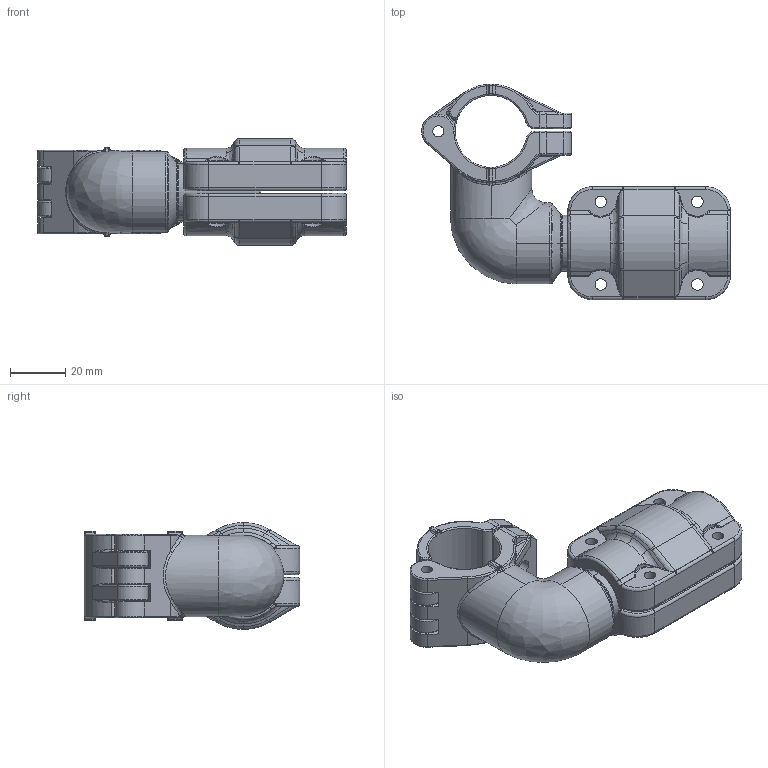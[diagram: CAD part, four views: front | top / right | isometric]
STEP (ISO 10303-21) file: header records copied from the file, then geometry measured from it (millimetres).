
FILE_DESCRIPTION((''),'2;1');
FILE_NAME('2015211099_ASM_6_ASM','2017-05-15T',('Administrator'),(''),'PRO/ENGINEER BY PARAMETRIC TECHNOLOGY CORPORATION, 2009360','PRO/ENGINEER BY PARAMETRIC TECHNOLOGY CORPORATION, 2009360','');
FILE_SCHEMA(('AUTOMOTIVE_DESIGN_CC2 { 1 2 10303 214 -1 1 5 2 }'));
Length unit declared in the file: millimetre
Products named in the file (8): MANIFOLD_SOLID_BREP_95_9_1; MANIFOLD_SOLID_BREP_96_10_1; 2015211000_ASM_4_ASM_1_ASM; 2015211000_ASM_ASM_1_ASM; 201510020000_38_1; 201510020001_10_1; 2015100200_ASM_1_ASM; 2015211099_ASM_6_ASM
Assembly tree (7 placements, depth 4):
  2015211099_ASM_6_ASM
    2015211000_ASM_ASM_1_ASM
      2015211000_ASM_4_ASM_1_ASM
        MANIFOLD_SOLID_BREP_95_9_1
        MANIFOLD_SOLID_BREP_96_10_1
    2015100200_ASM_1_ASM
      201510020000_38_1
      201510020001_10_1
Bounding box: 112.04 x 78.19 x 38.8 mm (x, y, z)
Volume: 86480.3 mm3; surface area: 38002.5 mm2
Topology: 4 solids, 10 shells, 759 faces, 1859 edges, 1082 vertices
Faces by surface type: cylinder 240, bspline 218, torus 168, plane 89, sphere 24, cone 20
Entity records: 40629 total; most frequent: CARTESIAN_POINT 18776, ORIENTED_EDGE 3640, DIRECTION 3169, EDGE_CURVE 1820, AXIS2_PLACEMENT_3D 1385, PRESENTATION_STYLE_ASSIGNMENT 1316, STYLED_ITEM 1316, VERTEX_POINT 1082
